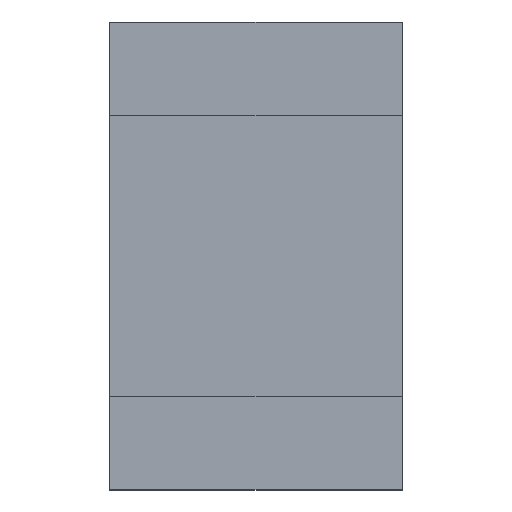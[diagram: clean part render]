
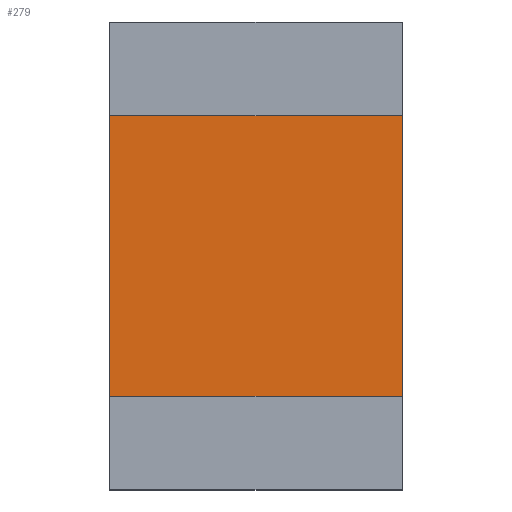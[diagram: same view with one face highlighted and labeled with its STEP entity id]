
A CAD part, top view. The second image highlights one B-rep face of the part: STEP entity #279.
In plain terms, the highlighted planar face has unit normal (0, 0, 1).
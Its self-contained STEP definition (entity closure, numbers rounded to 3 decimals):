
#33=FACE_OUTER_BOUND('',#47,.T.);
#47=EDGE_LOOP('',(#217,#218,#219,#220));
#56=LINE('',#382,#92);
#65=LINE('',#402,#101);
#80=LINE('',#432,#116);
#81=LINE('',#433,#117);
#92=VECTOR('',#314,10.);
#101=VECTOR('',#329,10.);
#116=VECTOR('',#354,10.);
#117=VECTOR('',#355,10.);
#126=VERTEX_POINT('',#376);
#128=VERTEX_POINT('',#380);
#135=VERTEX_POINT('',#399);
#136=VERTEX_POINT('',#401);
#152=EDGE_CURVE('',#126,#128,#56,.T.);
#161=EDGE_CURVE('',#136,#135,#65,.T.);
#176=EDGE_CURVE('',#128,#136,#80,.T.);
#177=EDGE_CURVE('',#135,#126,#81,.T.);
#217=ORIENTED_EDGE('',*,*,#152,.T.);
#218=ORIENTED_EDGE('',*,*,#176,.T.);
#219=ORIENTED_EDGE('',*,*,#161,.T.);
#220=ORIENTED_EDGE('',*,*,#177,.T.);
#265=PLANE('',#301);
#279=ADVANCED_FACE('',(#33),#265,.T.);
#301=AXIS2_PLACEMENT_3D('',#431,#352,#353);
#314=DIRECTION('',(1.,0.,0.));
#329=DIRECTION('',(-1.,0.,0.));
#352=DIRECTION('center_axis',(0.,0.,1.));
#353=DIRECTION('ref_axis',(1.,0.,0.));
#354=DIRECTION('',(0.,1.,0.));
#355=DIRECTION('',(0.,-1.,0.));
#376=CARTESIAN_POINT('',(0.,0.4,0.45));
#380=CARTESIAN_POINT('',(1.25,0.4,0.45));
#382=CARTESIAN_POINT('',(0.938,0.4,0.45));
#399=CARTESIAN_POINT('',(0.,1.6,0.45));
#401=CARTESIAN_POINT('',(1.25,1.6,0.45));
#402=CARTESIAN_POINT('',(0.938,1.6,0.45));
#431=CARTESIAN_POINT('Origin',(0.625,1.,0.45));
#432=CARTESIAN_POINT('',(1.25,0.,0.45));
#433=CARTESIAN_POINT('',(0.,2.,0.45));
